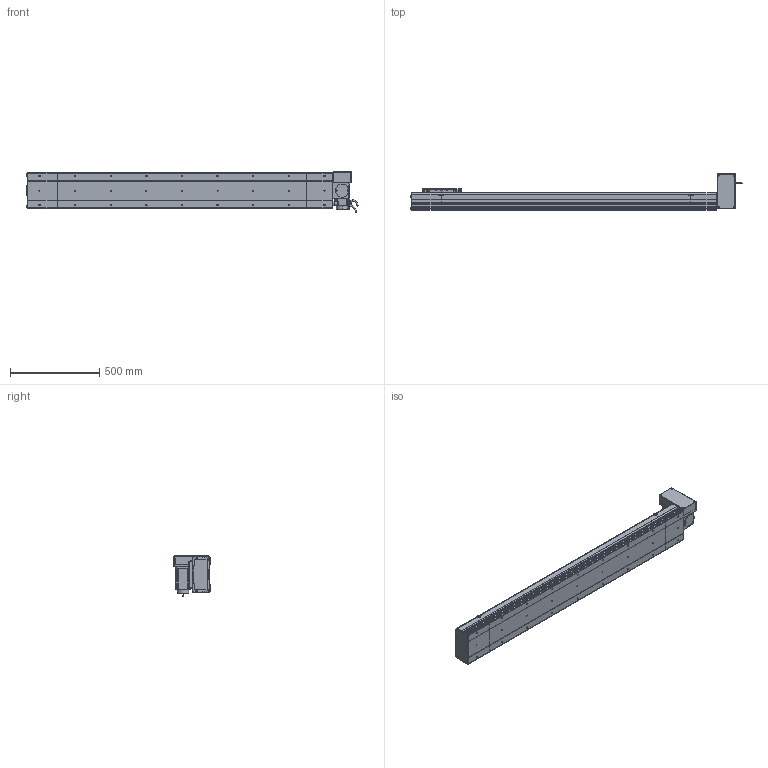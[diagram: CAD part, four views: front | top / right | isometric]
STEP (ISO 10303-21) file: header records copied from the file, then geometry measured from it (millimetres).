
FILE_DESCRIPTION (( 'STEP AP214' ), '1' );
FILE_NAME ('D20 CBH LT S1400.STEP', '2010-06-30T09:28:31', ( 'Conseil Régional Haute-Normandie' ), ( 'Conseil Régional Haute-Normandie' ), 'SwSTEP 2.0', 'SolidWorks 2010', '' );
FILE_SCHEMA (( 'AUTOMOTIVE_DESIGN' ));
Length unit declared in the file: millimetre
Products named in the file (31): Rondelle Cache D20 LT_Default; Plaque de Bout Tail D20_Default; Support moteur LT_Default; Tail D20_Default; Couvercle_Default; Corp Tail D20_Default; Couvercle S1400_Default; Corp S1400_Default; Corp D20 S1400_Default; Cache Support Moteur LT_Default; Conecteur_Default; Conecteur2_Default; codeur 90BLDC125-640; vis M5 L47_Default; vis M5 L30_Default; ecrou_Default; corps 90BLDC125A-640; avant 90BLDC125A-640; Moteur motionking 90BLDC125A-640; Chariot D20_Default; Support Chariot D20_Default; vis M5 L15_Default; D20 CBH LT S1400; Head LT_Default; Plaque de Bout Head D20 LT_Default; Plaque De Serrage D20_Default; Corp Tail D20 LT_Default; Couvercle LT_Default; Glissiere_Default; Plaque De Serrage D20 LT_Default
Assembly tree (66 placements, depth 4):
  D20 CBH LT S1400
    Head LT_Default
      Corp Tail D20 LT_Default
      Plaque De Serrage D20 LT_Default
      vis M5 L47_Default  x4
      ecrou_Default  x4
      vis M5 L15_Default  x12
      vis M5 L30_Default  x4
      Plaque de Bout Head D20 LT_Default
      Rondelle Cache D20 LT_Default  x3
      Couvercle LT_Default
      Support moteur LT_Default
      Moteur motionking 90BLDC125A-640
        Conecteur2_Default
        corps 90BLDC125A-640
        codeur 90BLDC125-640
        avant 90BLDC125A-640
        Conecteur_Default
      Cache Support Moteur LT_Default
    Tail D20_Default
      Couvercle_Default
      vis M5 L15_Default  x6
      Plaque de Bout Tail D20_Default
      Plaque De Serrage D20_Default
      Corp Tail D20_Default
    Chariot D20_Default
      vis M5 L15_Default  x8
      Chariot D20_Default
      Support Chariot D20_Default
      Glissiere_Default
    Corp D20 S1400_Default
      Corp S1400_Default
      Couvercle S1400_Default
Bounding box: 1863.45 x 202.5 x 229.7 mm (x, y, z)
Volume: 13057019 mm3; surface area: 2610392.4 mm2
Topology: 103 solids, 103 shells, 3756 faces, 9422 edges, 6124 vertices
Faces by surface type: plane 2089, bspline 806, cylinder 698, torus 91, cone 68, sphere 4
Entity records: 160150 total; most frequent: CARTESIAN_POINT 83146, ORIENTED_EDGE 15312, DIRECTION 11520, EDGE_CURVE 7656, VERTEX_POINT 5068, VECTOR 4928, LINE 4928, AXIS2_PLACEMENT_3D 3296
